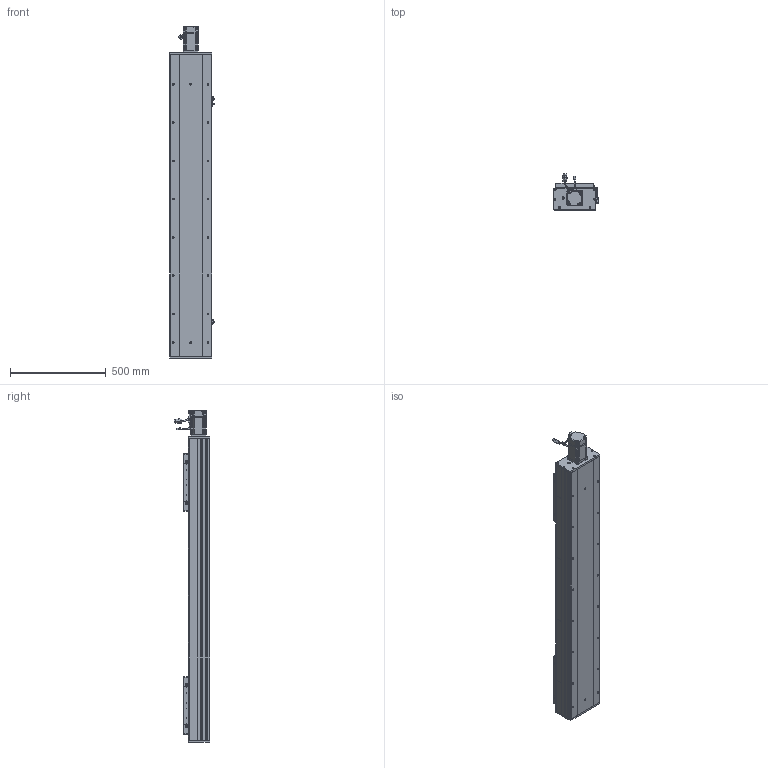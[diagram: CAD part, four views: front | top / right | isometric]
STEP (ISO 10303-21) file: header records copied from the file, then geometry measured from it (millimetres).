
FILE_DESCRIPTION (( 'STEP AP203' ), '1' );
FILE_NAME ('RY220F-L2525-300-MK.SLDASM_1150.step', '2022-07-04T01:03:54', ( '' ), ( '' ), 'SwSTEP 2.0', 'SolidWorks 2016', '' );
FILE_SCHEMA (( 'CONFIG_CONTROL_DESIGN' ));
Length unit declared in the file: millimetre
Products named in the file (15): RY220F臏賑釱25-32佪裝; RY220F菁釱MK-300_1150; 滅袉蝶18-20; RY220Fヶ裔啣; RY220F-672覜茼んえ; RY220电机支撑座FK20（PCD90M6）; RY220F-詩湍揤踡輸; RY220F-滅鳥奻裔; RY220F-祥凄詩湍-MK-300_1150; RY220F-L2525-300-MK.SLDASM_1150; RY220F綴裔啣; 怢湛750W_ECMA-CX0807ES; 覜茼ん672; RY220F-奻裔啣-300_1150; 滅袉蝶18-24
Assembly tree (23 placements, depth 2):
  RY220F-L2525-300-MK.SLDASM_1150
    RY220F菁釱MK-300_1150
    RY220电机支撑座FK20（PCD90M6）
    RY220F-奻裔啣-300_1150  x2
    怢湛750W_ECMA-CX0807ES
    RY220F臏賑釱25-32佪裝  x2
    RY220F-滅鳥奻裔  x2
    滅袉蝶18-20
    滅袉蝶18-24  x3
    RY220Fヶ裔啣
    RY220F綴裔啣
    RY220F-祥凄詩湍-MK-300_1150
    RY220F-詩湍揤踡輸  x2
    覜茼ん672  x3
    RY220F-672覜茼んえ  x2
Bounding box: 233.7 x 187.27 x 1734.3 mm (x, y, z)
Volume: 15836407.9 mm3; surface area: 3959390.2 mm2
Topology: 24 solids, 24 shells, 2778 faces, 7606 edges, 4704 vertices
Faces by surface type: cylinder 1258, plane 1030, cone 427, bspline 37, sphere 16, torus 10
Entity records: 69394 total; most frequent: CARTESIAN_POINT 18556, ORIENTED_EDGE 10290, DIRECTION 10038, EDGE_CURVE 5145, AXIS2_PLACEMENT_3D 3579, VERTEX_POINT 3344, LINE 2880, VECTOR 2880
